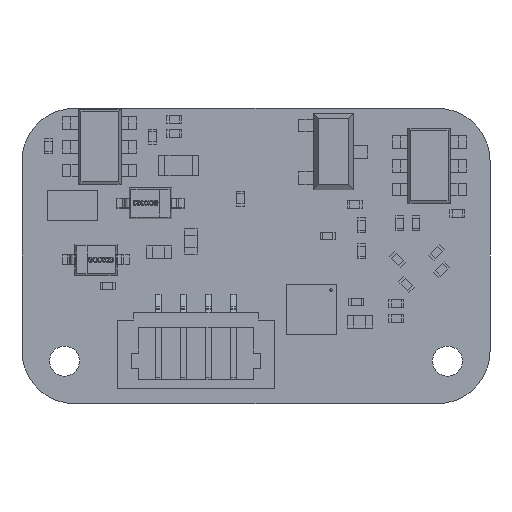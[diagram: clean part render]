
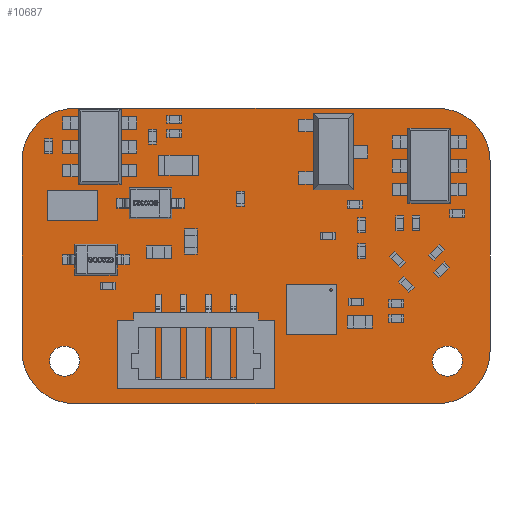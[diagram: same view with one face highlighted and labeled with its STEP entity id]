
A CAD part, front view. The second image highlights one B-rep face of the part: STEP entity #10687.
In plain terms, the highlighted planar face has unit normal (0, -1, 0).
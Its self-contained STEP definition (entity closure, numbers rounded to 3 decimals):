
#273 = VERTEX_POINT ( 'NONE', #1112 ) ;
#734 = CIRCLE ( 'NONE', #12754, 0.6 ) ;
#833 = CARTESIAN_POINT ( 'NONE',  ( 7.65, 0., -4.2 ) ) ;
#1007 = DIRECTION ( 'NONE',  ( 0., 0., 1. ) ) ;
#1112 = CARTESIAN_POINT ( 'NONE',  ( 7.25, 0., -5.9 ) ) ;
#1249 = VERTEX_POINT ( 'NONE', #10662 ) ;
#1300 = EDGE_CURVE ( 'NONE', #14510, #10928, #23010, .T. ) ;
#1319 = CIRCLE ( 'NONE', #7089, 2.1 ) ;
#1450 = CIRCLE ( 'NONE', #19726, 2.1 ) ;
#1535 = DIRECTION ( 'NONE',  ( 0., 0., 1. ) ) ;
#1570 = DIRECTION ( 'NONE',  ( -1., 0., 0. ) ) ;
#1802 = EDGE_CURVE ( 'NONE', #8401, #4589, #734, .T. ) ;
#1817 = VERTEX_POINT ( 'NONE', #5487 ) ;
#1923 = CIRCLE ( 'NONE', #18746, 0.6 ) ;
#2023 = EDGE_CURVE ( 'NONE', #20369, #1817, #1450, .T. ) ;
#2364 = CARTESIAN_POINT ( 'NONE',  ( 9.35, 0., 5.9 ) ) ;
#2706 = CARTESIAN_POINT ( 'NONE',  ( 7.65, 0., -4.8 ) ) ;
#2828 = FACE_OUTER_BOUND ( 'NONE', #11510, .T. ) ;
#3055 = ORIENTED_EDGE ( 'NONE', *, *, #2023, .T. ) ;
#3385 = ORIENTED_EDGE ( 'NONE', *, *, #26565, .T. ) ;
#3430 = FACE_BOUND ( 'NONE', #10432, .T. ) ;
#3831 = AXIS2_PLACEMENT_3D ( 'NONE', #5141, #12379, #7116 ) ;
#4147 = EDGE_LOOP ( 'NONE', ( #3385, #25493 ) ) ;
#4425 = DIRECTION ( 'NONE',  ( 0., -1., 0. ) ) ;
#4429 = EDGE_CURVE ( 'NONE', #26104, #18599, #10608, .T. ) ;
#4589 = VERTEX_POINT ( 'NONE', #2706 ) ;
#5094 = DIRECTION ( 'NONE',  ( 0., 0., 1. ) ) ;
#5141 = CARTESIAN_POINT ( 'NONE',  ( 7.25, 0., 3.8 ) ) ;
#5487 = CARTESIAN_POINT ( 'NONE',  ( -7.25, 0., -5.9 ) ) ;
#5514 = AXIS2_PLACEMENT_3D ( 'NONE', #9776, #20644, #16703 ) ;
#5637 = LINE ( 'NONE', #26733, #22521 ) ;
#6921 = CARTESIAN_POINT ( 'NONE',  ( -9.35, 0., 5.9 ) ) ;
#7089 = AXIS2_PLACEMENT_3D ( 'NONE', #8791, #17989, #25519 ) ;
#7116 = DIRECTION ( 'NONE',  ( 0., 0., 1. ) ) ;
#7495 = CARTESIAN_POINT ( 'NONE',  ( 0., 0., 0. ) ) ;
#7504 = EDGE_CURVE ( 'NONE', #14510, #16666, #28139, .T. ) ;
#8401 = VERTEX_POINT ( 'NONE', #17475 ) ;
#8791 = CARTESIAN_POINT ( 'NONE',  ( 7.25, 0., -3.8 ) ) ;
#9075 = CARTESIAN_POINT ( 'NONE',  ( -7.65, 0., -3.6 ) ) ;
#9086 = DIRECTION ( 'NONE',  ( 0., 0., 1. ) ) ;
#9451 = CARTESIAN_POINT ( 'NONE',  ( -7.65, 0., -4.8 ) ) ;
#9776 = CARTESIAN_POINT ( 'NONE',  ( 7.65, 0., -4.2 ) ) ;
#10344 = DIRECTION ( 'NONE',  ( 0., 1., 0. ) ) ;
#10432 = EDGE_LOOP ( 'NONE', ( #29078, #13739 ) ) ;
#10608 = CIRCLE ( 'NONE', #28900, 0.6 ) ;
#10662 = CARTESIAN_POINT ( 'NONE',  ( 9.35, 0., -3.8 ) ) ;
#10687 = ADVANCED_FACE ( 'NONE', ( #2828, #3430, #12017 ), #21204, .F. ) ;
#10817 = CARTESIAN_POINT ( 'NONE',  ( -7.25, 0., 5.9 ) ) ;
#10928 = VERTEX_POINT ( 'NONE', #28538 ) ;
#11305 = VECTOR ( 'NONE', #5094, 1000. ) ;
#11510 = EDGE_LOOP ( 'NONE', ( #14744, #28737, #23345, #19837, #23050, #11544, #15319, #3055 ) ) ;
#11544 = ORIENTED_EDGE ( 'NONE', *, *, #7504, .T. ) ;
#11696 = LINE ( 'NONE', #20460, #26842 ) ;
#12017 = FACE_BOUND ( 'NONE', #4147, .T. ) ;
#12346 = EDGE_CURVE ( 'NONE', #28151, #10928, #23090, .T. ) ;
#12379 = DIRECTION ( 'NONE',  ( 0., -1., 0. ) ) ;
#12754 = AXIS2_PLACEMENT_3D ( 'NONE', #833, #25848, #28407 ) ;
#12918 = EDGE_CURVE ( 'NONE', #273, #1249, #1319, .T. ) ;
#12978 = CARTESIAN_POINT ( 'NONE',  ( -7.65, 0., -4.2 ) ) ;
#13542 = EDGE_CURVE ( 'NONE', #28151, #1249, #11696, .T. ) ;
#13602 = CARTESIAN_POINT ( 'NONE',  ( -7.25, 0., -3.8 ) ) ;
#13663 = DIRECTION ( 'NONE',  ( 0., 0., -1. ) ) ;
#13712 = AXIS2_PLACEMENT_3D ( 'NONE', #14844, #25708, #1007 ) ;
#13739 = ORIENTED_EDGE ( 'NONE', *, *, #4429, .T. ) ;
#14510 = VERTEX_POINT ( 'NONE', #10817 ) ;
#14744 = ORIENTED_EDGE ( 'NONE', *, *, #15254, .F. ) ;
#14844 = CARTESIAN_POINT ( 'NONE',  ( -7.25, 0., 3.8 ) ) ;
#15235 = AXIS2_PLACEMENT_3D ( 'NONE', #7495, #16676, #25887 ) ;
#15254 = EDGE_CURVE ( 'NONE', #273, #1817, #5637, .T. ) ;
#15319 = ORIENTED_EDGE ( 'NONE', *, *, #29067, .F. ) ;
#16666 = VERTEX_POINT ( 'NONE', #18902 ) ;
#16676 = DIRECTION ( 'NONE',  ( 0., 1., 0. ) ) ;
#16703 = DIRECTION ( 'NONE',  ( 0., 0., -1. ) ) ;
#17278 = DIRECTION ( 'NONE',  ( 0., 0., 1. ) ) ;
#17475 = CARTESIAN_POINT ( 'NONE',  ( 7.65, 0., -3.6 ) ) ;
#17810 = EDGE_CURVE ( 'NONE', #18599, #26104, #1923, .T. ) ;
#17989 = DIRECTION ( 'NONE',  ( 0., -1., 0. ) ) ;
#18599 = VERTEX_POINT ( 'NONE', #9451 ) ;
#18746 = AXIS2_PLACEMENT_3D ( 'NONE', #29022, #10344, #17278 ) ;
#18902 = CARTESIAN_POINT ( 'NONE',  ( -9.35, 0., 3.8 ) ) ;
#19726 = AXIS2_PLACEMENT_3D ( 'NONE', #13602, #4425, #9086 ) ;
#19837 = ORIENTED_EDGE ( 'NONE', *, *, #12346, .T. ) ;
#19968 = CARTESIAN_POINT ( 'NONE',  ( 9.35, 0., 3.8 ) ) ;
#20369 = VERTEX_POINT ( 'NONE', #22219 ) ;
#20460 = CARTESIAN_POINT ( 'NONE',  ( 9.35, 0., 5.9 ) ) ;
#20592 = DIRECTION ( 'NONE',  ( 1., 0., 0. ) ) ;
#20644 = DIRECTION ( 'NONE',  ( 0., 1., 0. ) ) ;
#21072 = LINE ( 'NONE', #6921, #11305 ) ;
#21204 = PLANE ( 'NONE',  #15235 ) ;
#22176 = DIRECTION ( 'NONE',  ( 0., 1., 0. ) ) ;
#22219 = CARTESIAN_POINT ( 'NONE',  ( -9.35, 0., -3.8 ) ) ;
#22363 = CIRCLE ( 'NONE', #5514, 0.6 ) ;
#22521 = VECTOR ( 'NONE', #1570, 1000. ) ;
#23010 = LINE ( 'NONE', #2364, #24529 ) ;
#23050 = ORIENTED_EDGE ( 'NONE', *, *, #1300, .F. ) ;
#23090 = CIRCLE ( 'NONE', #3831, 2.1 ) ;
#23345 = ORIENTED_EDGE ( 'NONE', *, *, #13542, .F. ) ;
#24529 = VECTOR ( 'NONE', #20592, 1000. ) ;
#25493 = ORIENTED_EDGE ( 'NONE', *, *, #1802, .T. ) ;
#25519 = DIRECTION ( 'NONE',  ( 0., 0., 1. ) ) ;
#25708 = DIRECTION ( 'NONE',  ( 0., -1., 0. ) ) ;
#25848 = DIRECTION ( 'NONE',  ( 0., 1., 0. ) ) ;
#25887 = DIRECTION ( 'NONE',  ( 0., 0., 1. ) ) ;
#26104 = VERTEX_POINT ( 'NONE', #9075 ) ;
#26565 = EDGE_CURVE ( 'NONE', #4589, #8401, #22363, .T. ) ;
#26733 = CARTESIAN_POINT ( 'NONE',  ( 9.35, 0., -5.9 ) ) ;
#26842 = VECTOR ( 'NONE', #13663, 1000. ) ;
#28139 = CIRCLE ( 'NONE', #13712, 2.1 ) ;
#28151 = VERTEX_POINT ( 'NONE', #19968 ) ;
#28407 = DIRECTION ( 'NONE',  ( 0., 0., -1. ) ) ;
#28538 = CARTESIAN_POINT ( 'NONE',  ( 7.25, 0., 5.9 ) ) ;
#28737 = ORIENTED_EDGE ( 'NONE', *, *, #12918, .T. ) ;
#28900 = AXIS2_PLACEMENT_3D ( 'NONE', #12978, #22176, #1535 ) ;
#29022 = CARTESIAN_POINT ( 'NONE',  ( -7.65, 0., -4.2 ) ) ;
#29067 = EDGE_CURVE ( 'NONE', #20369, #16666, #21072, .T. ) ;
#29078 = ORIENTED_EDGE ( 'NONE', *, *, #17810, .T. ) ;
